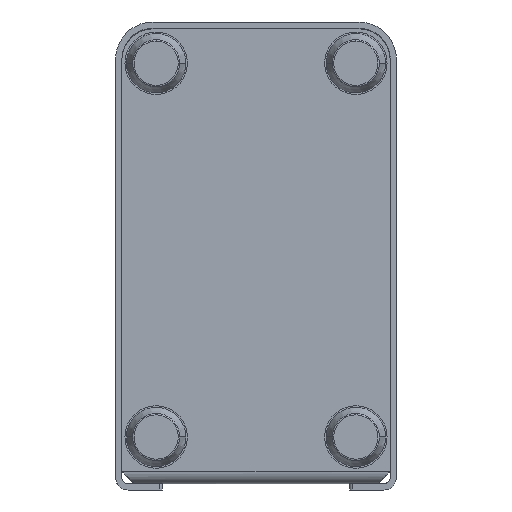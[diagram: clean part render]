
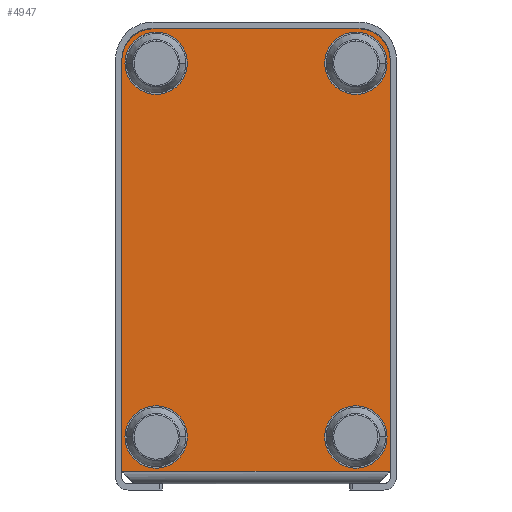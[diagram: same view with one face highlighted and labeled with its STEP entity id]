
A CAD part, front view. The second image highlights one B-rep face of the part: STEP entity #4947.
In plain terms, the highlighted planar face has unit normal (0, -1, 0).
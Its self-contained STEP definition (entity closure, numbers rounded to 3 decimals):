
#97 = EDGE_LOOP ( 'NONE', ( #1406, #5323, #610, #4786, #5093, #2328 ) ) ;
#483 = VERTEX_POINT ( 'NONE', #7147 ) ;
#580 = CARTESIAN_POINT ( 'NONE',  ( -33., 0., 135.8 ) ) ;
#610 = ORIENTED_EDGE ( 'NONE', *, *, #7614, .T. ) ;
#958 = DIRECTION ( 'NONE',  ( 0., -1., 0. ) ) ;
#1056 = DIRECTION ( 'NONE',  ( 0., -1., 0. ) ) ;
#1397 = LINE ( 'NONE', #4373, #3177 ) ;
#1406 = ORIENTED_EDGE ( 'NONE', *, *, #4447, .T. ) ;
#1750 = VERTEX_POINT ( 'NONE', #2997 ) ;
#1914 = VERTEX_POINT ( 'NONE', #6059 ) ;
#2088 = CIRCLE ( 'NONE', #6557, 10. ) ;
#2328 = ORIENTED_EDGE ( 'NONE', *, *, #5632, .T. ) ;
#2380 = DIRECTION ( 'NONE',  ( 0., -1., 0. ) ) ;
#2521 = CARTESIAN_POINT ( 'NONE',  ( 43., 0., 135.8 ) ) ;
#2592 = EDGE_CURVE ( 'NONE', #1750, #483, #4009, .T. ) ;
#2776 = DIRECTION ( 'NONE',  ( -1., 0., 0. ) ) ;
#2848 = CARTESIAN_POINT ( 'NONE',  ( -43., 0., 145.8 ) ) ;
#2997 = CARTESIAN_POINT ( 'NONE',  ( -43., 0., 135.8 ) ) ;
#3153 = AXIS2_PLACEMENT_3D ( 'NONE', #580, #2380, #7148 ) ;
#3176 = DIRECTION ( 'NONE',  ( 1., 0., 0. ) ) ;
#3177 = VECTOR ( 'NONE', #3176, 1000. ) ;
#3178 = CARTESIAN_POINT ( 'NONE',  ( 43., 0., 4. ) ) ;
#3349 = EDGE_CURVE ( 'NONE', #3770, #1914, #5185, .T. ) ;
#3411 = CARTESIAN_POINT ( 'NONE',  ( 0., 0., 145.8 ) ) ;
#3770 = VERTEX_POINT ( 'NONE', #7548 ) ;
#3950 = PLANE ( 'NONE',  #6923 ) ;
#3974 = DIRECTION ( 'NONE',  ( 0., 0., -1. ) ) ;
#4009 = LINE ( 'NONE', #2848, #4808 ) ;
#4057 = DIRECTION ( 'NONE',  ( 0., 0., 1. ) ) ;
#4373 = CARTESIAN_POINT ( 'NONE',  ( 0., 0., 4. ) ) ;
#4447 = EDGE_CURVE ( 'NONE', #6488, #3770, #2088, .T. ) ;
#4636 = CARTESIAN_POINT ( 'NONE',  ( 33., 0., 135.8 ) ) ;
#4786 = ORIENTED_EDGE ( 'NONE', *, *, #2592, .T. ) ;
#4808 = VECTOR ( 'NONE', #6373, 1000. ) ;
#4947 = ADVANCED_FACE ( 'NONE', ( #7518 ), #3950, .T. ) ;
#5093 = ORIENTED_EDGE ( 'NONE', *, *, #6947, .T. ) ;
#5120 = VERTEX_POINT ( 'NONE', #3178 ) ;
#5185 = LINE ( 'NONE', #3411, #6620 ) ;
#5323 = ORIENTED_EDGE ( 'NONE', *, *, #3349, .T. ) ;
#5553 = VECTOR ( 'NONE', #4057, 1000. ) ;
#5632 = EDGE_CURVE ( 'NONE', #5120, #6488, #6257, .T. ) ;
#5729 = CARTESIAN_POINT ( 'NONE',  ( 43., 0., 145.8 ) ) ;
#6059 = CARTESIAN_POINT ( 'NONE',  ( -33., 0., 145.8 ) ) ;
#6257 = LINE ( 'NONE', #5729, #5553 ) ;
#6313 = CARTESIAN_POINT ( 'NONE',  ( 0., 0., 145.8 ) ) ;
#6373 = DIRECTION ( 'NONE',  ( 0., 0., -1. ) ) ;
#6488 = VERTEX_POINT ( 'NONE', #2521 ) ;
#6557 = AXIS2_PLACEMENT_3D ( 'NONE', #4636, #958, #3974 ) ;
#6620 = VECTOR ( 'NONE', #2776, 1000. ) ;
#6738 = CIRCLE ( 'NONE', #3153, 10. ) ;
#6923 = AXIS2_PLACEMENT_3D ( 'NONE', #6313, #1056, #6975 ) ;
#6947 = EDGE_CURVE ( 'NONE', #483, #5120, #1397, .T. ) ;
#6975 = DIRECTION ( 'NONE',  ( 0., 0., -1. ) ) ;
#7147 = CARTESIAN_POINT ( 'NONE',  ( -43., 0., 4. ) ) ;
#7148 = DIRECTION ( 'NONE',  ( 0., 0., 1. ) ) ;
#7518 = FACE_OUTER_BOUND ( 'NONE', #97, .T. ) ;
#7548 = CARTESIAN_POINT ( 'NONE',  ( 33., 0., 145.8 ) ) ;
#7614 = EDGE_CURVE ( 'NONE', #1914, #1750, #6738, .T. ) ;
